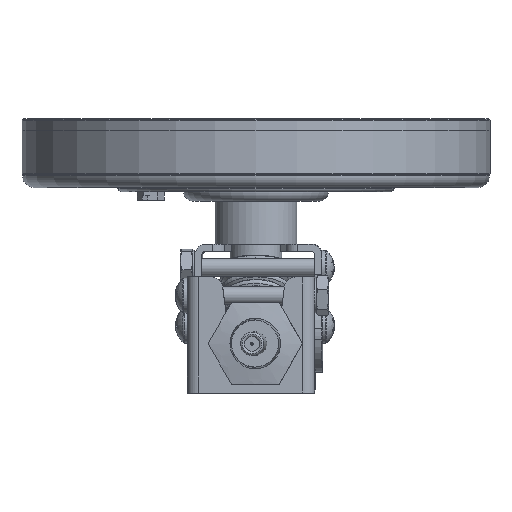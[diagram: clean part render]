
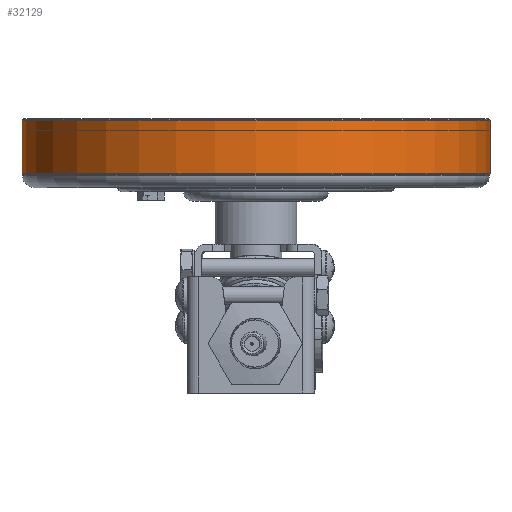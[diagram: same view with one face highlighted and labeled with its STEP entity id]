
A CAD part, front view. The second image highlights one B-rep face of the part: STEP entity #32129.
In plain terms, the highlighted cylindrical face has radius 63.5 mm (diameter 127 mm), a full revolution.
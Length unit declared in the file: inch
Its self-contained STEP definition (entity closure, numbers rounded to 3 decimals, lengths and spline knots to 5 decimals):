
#301=CYLINDRICAL_SURFACE($,#34075,2.5);
#870=FACE_BOUND($,#12940,.T.);
#10914=FACE_OUTER_BOUND($,#12939,.T.);
#12939=EDGE_LOOP($,(#28859));
#12940=EDGE_LOOP($,(#28860));
#13453=CIRCLE($,#34073,2.5);
#13455=CIRCLE($,#34076,2.5);
#16271=VERTEX_POINT($,#55317);
#16273=VERTEX_POINT($,#55322);
#20498=EDGE_CURVE($,#16271,#16271,#13453,.T.);
#20500=EDGE_CURVE($,#16273,#16273,#13455,.T.);
#28859=ORIENTED_EDGE($,*,*,#20500,.F.);
#28860=ORIENTED_EDGE($,*,*,#20498,.F.);
#32129=ADVANCED_FACE($,(#10914,#870),#301,.T.);
#34073=AXIS2_PLACEMENT_3D($,#55318,#40899,#40900);
#34075=AXIS2_PLACEMENT_3D($,#55321,#40903,#40904);
#34076=AXIS2_PLACEMENT_3D($,#55323,#40905,#40906);
#40899=DIRECTION('center_axis',(0.,0.,-1.));
#40900=DIRECTION('ref_axis',(-1.,0.,0.));
#40903=DIRECTION('center_axis',(0.,0.,-1.));
#40904=DIRECTION('ref_axis',(1.,0.,0.));
#40905=DIRECTION('center_axis',(0.,0.,1.));
#40906=DIRECTION('ref_axis',(-1.,0.,0.));
#55317=CARTESIAN_POINT('',(18.3258,8.24393,10.93251));
#55318=CARTESIAN_POINT('Origin',(15.8258,8.24393,10.93251));
#55321=CARTESIAN_POINT('Origin',(15.8258,8.24393,11.22651));
#55322=CARTESIAN_POINT('',(18.3258,8.24393,11.50514));
#55323=CARTESIAN_POINT('Origin',(15.8258,8.24393,11.50514));
